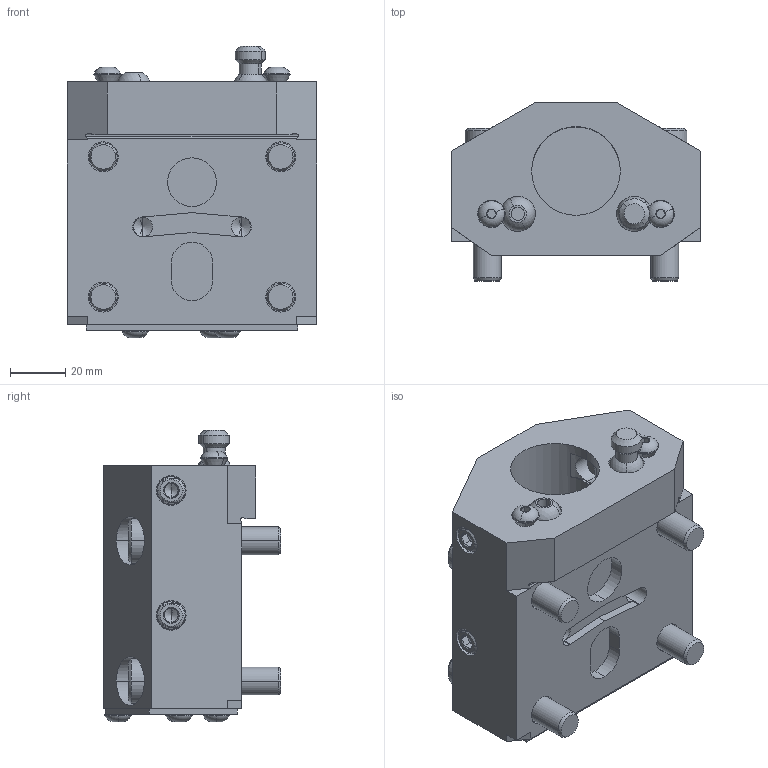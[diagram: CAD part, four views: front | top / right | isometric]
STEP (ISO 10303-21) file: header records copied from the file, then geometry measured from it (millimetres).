
FILE_DESCRIPTION (( 'STEP AP203' ), '1' );
FILE_NAME ('04-0793.STEP', '2022-07-12T16:10:20', ( '' ), ( '' ), 'SwSTEP 2.0', 'SolidWorks 2021', '' );
FILE_SCHEMA (( 'CONFIG_CONTROL_DESIGN' ));
Length unit declared in the file: inch
Products named in the file (12): 20-2077; 40-16583; 58-1627; 20-3137; 22-8749; 25-4142; 40-0003_40-0003; 44-0001_44-0002; 04-0793; 57-0026; 20-10443; 10000011370
Assembly tree (23 placements, depth 3):
  04-0793
    10000011370
      20-10443
      22-8749  x2
      25-4142
      58-1627
      57-0026  x2
      40-16583  x4
      40-0003_40-0003  x5
      44-0001_44-0002  x4
      20-3137
      20-2077
Bounding box: 90 x 64.06 x 105.11 mm (x, y, z)
Volume: 275220.7 mm3; surface area: 79195.6 mm2
Topology: 22 solids, 23 shells, 1226 faces, 2939 edges, 1761 vertices
Faces by surface type: cylinder 610, cone 357, plane 225, torus 18, bspline 10, sphere 6
Entity records: 18377 total; most frequent: CARTESIAN_POINT 6413, DIRECTION 2173, ORIENTED_EDGE 2166, EDGE_CURVE 1083, AXIS2_PLACEMENT_3D 845, VERTEX_POINT 669, EDGE_LOOP 514, LINE 483
